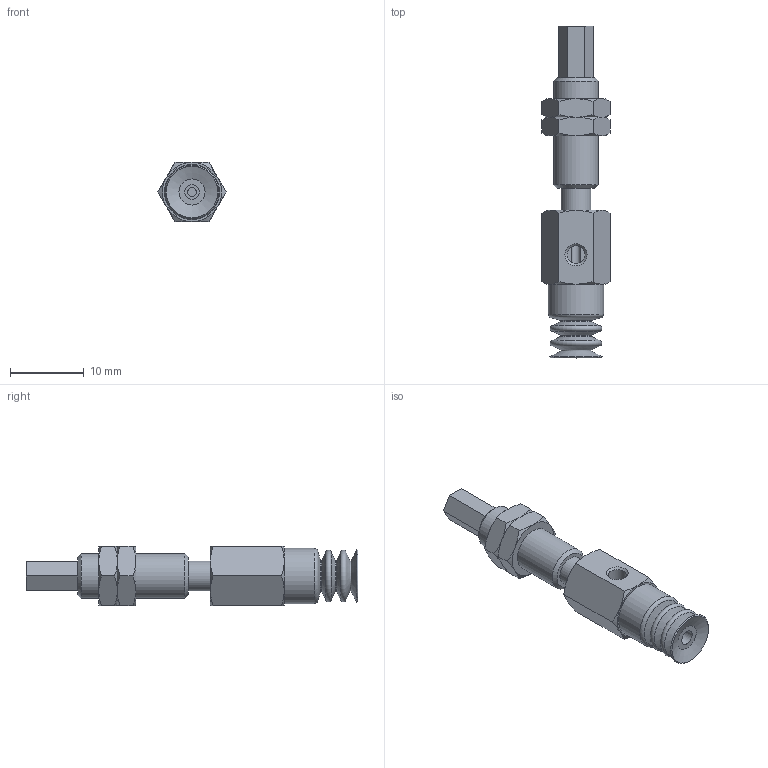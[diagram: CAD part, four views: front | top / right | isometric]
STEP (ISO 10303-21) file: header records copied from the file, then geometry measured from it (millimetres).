
FILE_DESCRIPTION(('STEP AP203'),'1');
FILE_NAME('.stp','2025-04-03T06:10:33',(' '),(' '),'Spatial InterOp 3D',' ',' ');
FILE_SCHEMA(('CONFIG_CONTROL_DESIGN'));
Length unit declared in the file: millimetre
Products named in the file (6): BNABPCYS-7-3-※; Connector_s-7-3; Nut napc_s-7-3; NAPCTS-7-3-FBODY; NAPCTS-7-3-MBODY; BPCG-7-※
Assembly tree (6 placements, depth 2):
  BNABPCYS-7-3-※
    Connector_s-7-3
    Nut napc_s-7-3  x2
    NAPCTS-7-3-FBODY
    NAPCTS-7-3-MBODY
    BPCG-7-※
Bounding box: 9.24 x 45 x 8 mm (x, y, z)
Volume: 1527.9 mm3; surface area: 2350.2 mm2
Topology: 6 solids, 6 shells, 139 faces, 289 edges, 169 vertices
Faces by surface type: plane 57, cone 56, cylinder 15, torus 11
Full cylindrical faces by diameter (mm): 1.2 x1, 2 x1, 2.459 x2, 3 x1, 4 x4, 5.188 x2, 6 x3, 7.5 x1
Entity records: 3330 total; most frequent: CARTESIAN_POINT 777, DIRECTION 476, ORIENTED_EDGE 394, AXIS2_PLACEMENT_3D 210, EDGE_CURVE 197, EDGE_LOOP 174, FACE_OUTER_BOUND 141, VERTEX_POINT 139
